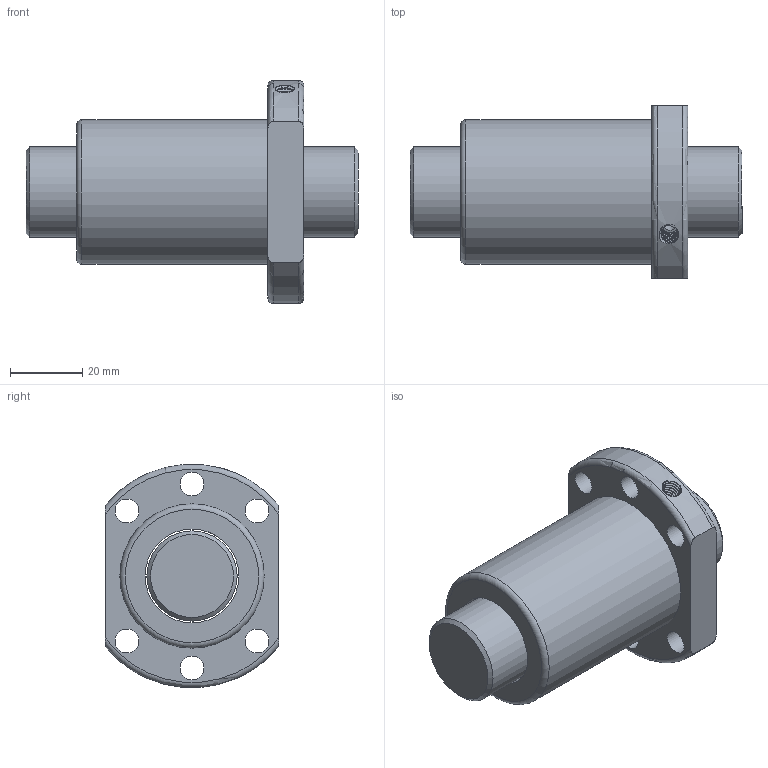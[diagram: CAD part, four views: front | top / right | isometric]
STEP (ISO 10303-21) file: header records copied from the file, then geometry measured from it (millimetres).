
FILE_DESCRIPTION (( 'STEP AP203' ), '1' );
FILE_NAME ('SFU02508-4.STEP', '2023-08-16T01:56:13', ( '' ), ( '' ), 'SwSTEP 2.0', 'SolidWorks 2022', '' );
FILE_SCHEMA (( 'CONFIG_CONTROL_DESIGN' ));
Length unit declared in the file: millimetre
Products named in the file (1): SFU02508-4
Bounding box: 92 x 48 x 61.8 mm (x, y, z)
Volume: 102132.5 mm3; surface area: 26951.7 mm2
Topology: 2 solids, 2 shells, 31 faces, 73 edges, 48 vertices
Faces by surface type: cylinder 14, plane 8, torus 5, bspline 2, cone 2
Full cylindrical faces by diameter (mm): 4 x1, 6.6 x6, 25 x1, 26 x1, 40 x1
Entity records: 3078 total; most frequent: CARTESIAN_POINT 2330, DIRECTION 132, ORIENTED_EDGE 118, AXIS2_PLACEMENT_3D 62, EDGE_LOOP 62, EDGE_CURVE 59, VERTEX_POINT 47, FACE_OUTER_BOUND 42
